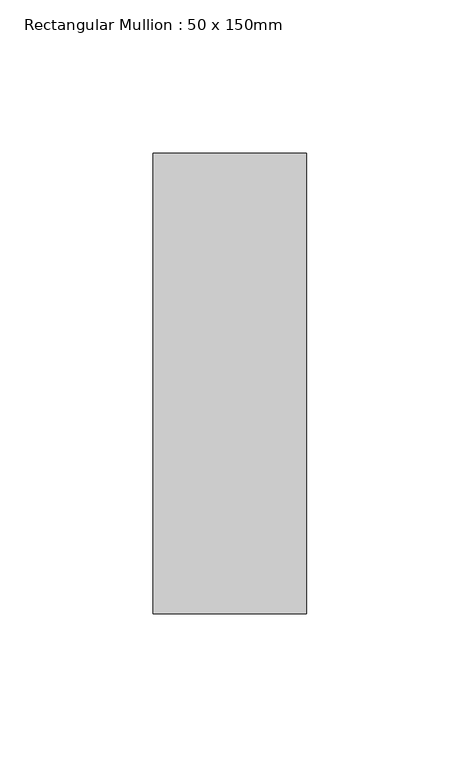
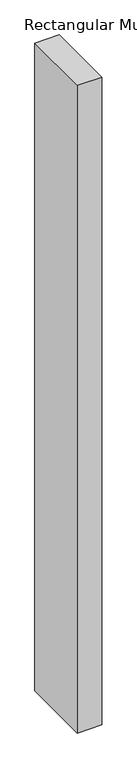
"""IFC4 building model written with IfcOpenShell, lengths in millimetres: member geometry, Rectangular Mullion : 50 x 150mm."""

from ifc_helpers import new_model, si_unit, frame, origin, place, context, project, spatial, polyline, outline, extrude, source, transform, mapped, element, save


def rectangular_mullion_50_x_150mm_bb50ce4a(model_context):
    return source(origin(), model_context, "Body", "SweptSolid", [
        extrude(outline(polyline([(25.0, 75.0), (25.0, -75.0), (-25.0, -75.0), (-25.0, 75.0), (25.0, 75.0)])), frame((0.0, 0.0, -1397.7225734), z_axis=(0.0, 0.0, 1.0), x_axis=(1.0, 0.0, 0.0)), (0.0, 0.0, 1.0), 1397.7225734),
    ])


if __name__ == "__main__":
    model = new_model("IFC4")
    model_context = context("Model", 3, world=origin())
    ifc_project = project(units=[si_unit("LENGTHUNIT", "METRE", prefix="MILLI")], contexts=[model_context])
    site = spatial("IfcSite", under=ifc_project)
    building = spatial("IfcBuilding", under=site)
    placement = place(None, origin())
    rectangular_mullion_50_x_150mm_shape = rectangular_mullion_50_x_150mm_bb50ce4a(model_context)
    element("IfcMember", 1, ObjectType="Rectangular Mullion : 50 x 150mm", at=placement, inside=building, context=model_context, shape_type="MappedRepresentation", body=[
        mapped(rectangular_mullion_50_x_150mm_shape, transform((0.0, 0.0, 0.0), x_axis=(1.0, 0.0, 0.0), y_axis=(0.0, 1.0, 0.0), z_axis=(0.0, 0.0, 1.0))),
    ])
    save(model, "model.ifc")
